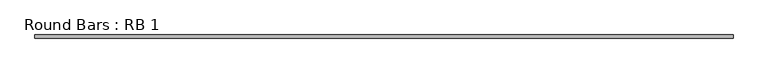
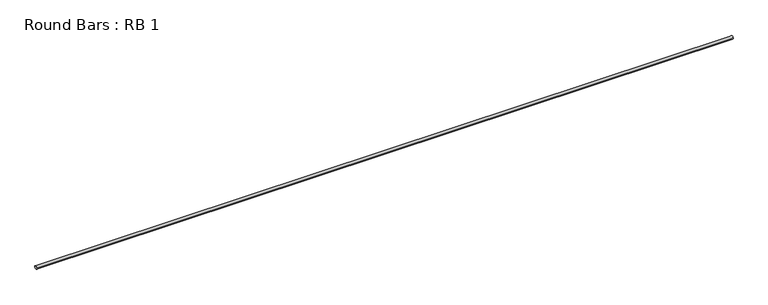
"""IFC4 building model written with IfcOpenShell, lengths in millimetres: beam geometry, Round Bars : RB 1."""

from ifc_helpers import new_model, si_unit, point, frame, origin, origin_2d, place, context, project, spatial, circle_curve, trimmed, segment, composite_curve, outline, extrude, source, transform, mapped, element, save


def round_bars_rb_1_5189ba87(model_context):
    return source(origin(), model_context, "Body", "SweptSolid", [
        extrude(outline(composite_curve([segment(trimmed(circle_curve(origin_2d(), 12.7), [point((12.7, 0.0))], [point((-12.7, 0.0))], False, "CARTESIAN"), True, "CONTINUOUS"), segment(trimmed(circle_curve(origin_2d(), 12.7), [point((-12.7, 0.0))], [point((12.7, 0.0))], False, "CARTESIAN"), True, "CONTINUOUS")], self_intersect=False)), frame((-2792.026853, 0.0, 0.0), z_axis=(1.0, 0.0, 0.0), x_axis=(0.0, 1.0, 0.0)), (0.0, 0.0, 1.0), 5584.053706),
    ])


if __name__ == "__main__":
    model = new_model("IFC4")
    model_context = context("Model", 3, world=origin())
    ifc_project = project(units=[si_unit("LENGTHUNIT", "METRE", prefix="MILLI")], contexts=[model_context])
    site = spatial("IfcSite", under=ifc_project)
    building = spatial("IfcBuilding", under=site)
    placement = place(None, origin())
    round_bars_rb_1_shape = round_bars_rb_1_5189ba87(model_context)
    element("IfcBeam", 1, ObjectType="Round Bars : RB 1", at=placement, inside=building, context=model_context, shape_type="MappedRepresentation", body=[
        mapped(round_bars_rb_1_shape, transform((0.0, 0.0, 0.0), x_axis=(1.0, 0.0, 0.0), y_axis=(0.0, 1.0, 0.0), z_axis=(0.0, 0.0, 1.0))),
    ])
    save(model, "model.ifc")
